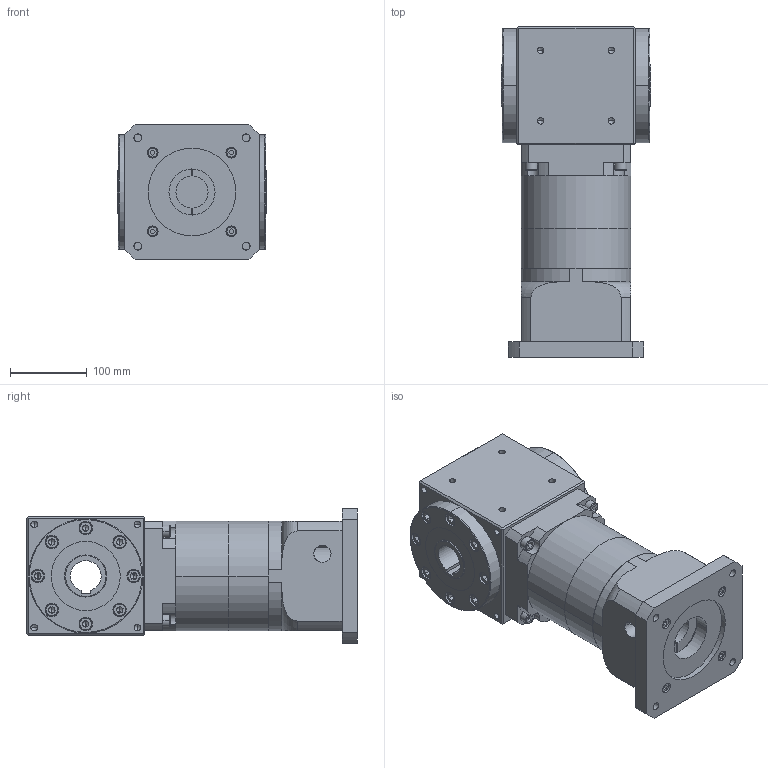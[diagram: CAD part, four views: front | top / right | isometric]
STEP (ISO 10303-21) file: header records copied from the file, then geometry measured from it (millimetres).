
FILE_DESCRIPTION (( 'STEP AP214' ), '1' );
FILE_NAME ('RAH150-L2-XX-H-42-114.3-200-M12_2019.STEP', '2019-03-27T10:22:11', ( 'Y' ), ( 'NCU' ), 'SwSTEP 2.0', 'SolidWorks 2016', '' );
FILE_SCHEMA (( 'AUTOMOTIVE_DESIGN' ));
Length unit declared in the file: millimetre
Products named in the file (1): RAH150-L2-XX-H-42-114.3-200-M12_2019
Bounding box: 195 x 431 x 176 mm (x, y, z)
Volume: 8731872.7 mm3; surface area: 608090.6 mm2
Topology: 4 solids, 38 shells, 975 faces, 2227 edges, 1372 vertices
Faces by surface type: plane 491, cylinder 320, cone 120, torus 44
Entity records: 29516 total; most frequent: CARTESIAN_POINT 5385, DIRECTION 4941, ORIENTED_EDGE 4294, EDGE_CURVE 2147, AXIS2_PLACEMENT_3D 1858, VERTEX_POINT 1372, LINE 1225, VECTOR 1225
